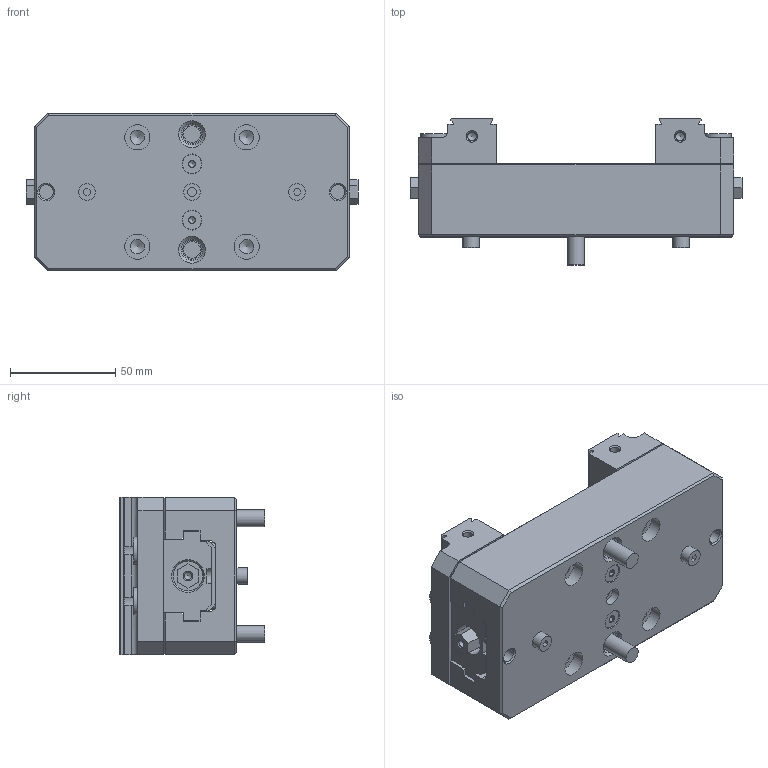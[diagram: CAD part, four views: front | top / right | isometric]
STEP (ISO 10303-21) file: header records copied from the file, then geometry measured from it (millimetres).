
FILE_DESCRIPTION (( 'STEP AP214' ), '1' );
FILE_NAME ('V75150X_WEBSITE.STEP', '2025-08-11T11:45:33', ( '' ), ( '' ), 'SwSTEP 2.0', 'SolidWorks 2025', '' );
FILE_SCHEMA (( 'AUTOMOTIVE_DESIGN' ));
Length unit declared in the file: inch
Products named in the file (15): V75100X-2_WEBSITE_V75100X-2R OP2; M4C_WEBSITE; HW.76048_WEBSITE_91290A138; V75100X-2_WEBSITE_V75100X-2L OP2; V75100X-5_WEBSITE_HARD OP2; M5x10.DP_WEBSITE_93600A511; V75100X-3_WEBSITE; HW.76232_WEBSITE_91290A418; HW.76252_WEBSITE_91290A442; V75150X-1_WEBSITE_FINAL; V75150X_WEBSITE; SB3V_WEBSITE_FINISHED PART; LP8_WEBSITE_LP8; V75150-4_WEBSITE; V75100-6_WEBSITE
Assembly tree (27 placements, depth 2):
  V75150X_WEBSITE
    V75150X-1_WEBSITE_FINAL
    V75100X-2_WEBSITE_V75100X-2R OP2
    V75100X-2_WEBSITE_V75100X-2L OP2
    V75100X-3_WEBSITE
    V75150-4_WEBSITE
    V75100X-5_WEBSITE_HARD OP2  x2
    V75100-6_WEBSITE  x2
    SB3V_WEBSITE_FINISHED PART  x2
    M5x10.DP_WEBSITE_93600A511  x2
    HW.76048_WEBSITE_91290A138
    HW.76232_WEBSITE_91290A418  x8
    M4C_WEBSITE
    LP8_WEBSITE_LP8  x2
    HW.76252_WEBSITE_91290A442  x2
Bounding box: 158 x 69.43 x 75 mm (x, y, z)
Volume: 399797.9 mm3; surface area: 120063.4 mm2
Topology: 27 solids, 27 shells, 731 faces, 1710 edges, 1089 vertices
Faces by surface type: plane 423, cylinder 162, cone 144, torus 2
Full cylindrical faces by diameter (mm): 3 x2, 3.124 x1, 3.3 x2, 3.454 x1, 4 x3, 4.2 x7, 4.5 x1, 4.915 x4, 4.999 x2, 5 x6, 5.013 x2, 5.017 x2, 5.052 x2, 5.969 x1, 6.35 x1, 6.8 x14, 7 x1, 7.4 x1, 8 x12, 8.014 x3, 8.5 x8, 9 x4, 9.5 x2, 10.2 x2, 12 x2, 12.009 x4, 12.5 x2, 13 x10, 13.5 x8, 13.9 x2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
Entity records: 16057 total; most frequent: CARTESIAN_POINT 2345, DIRECTION 2100, ORIENTED_EDGE 1762, EDGE_CURVE 881, AXIS2_PLACEMENT_3D 778, EDGE_LOOP 682, VERTEX_POINT 645, FACE_OUTER_BOUND 546
